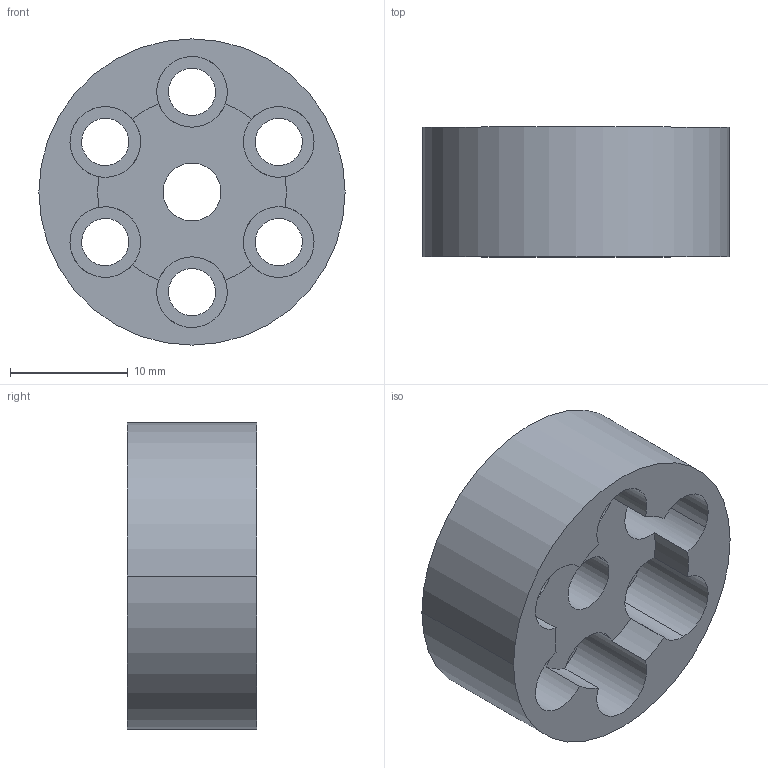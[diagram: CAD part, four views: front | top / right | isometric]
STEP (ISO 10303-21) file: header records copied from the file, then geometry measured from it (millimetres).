
FILE_DESCRIPTION(('CATIA V5 STEP Exchange'),'2;1');
FILE_NAME('C:\Users\Administrateur\Documents\Monture\Monture_voyage\Commande\Raccord_DEC.stp','2023-03-13T07:11:26+00:00',('none'),('none'),'CATIA Version 5 Release 18 GA (IN-10)','CATIA V5 STEP AP203','none');
FILE_SCHEMA(('CONFIG_CONTROL_DESIGN'));
Length unit declared in the file: millimetre
Products named in the file (1): Raccord_DEC
Bounding box: 26 x 11 x 26 mm (x, y, z)
Volume: 3562.5 mm3; surface area: 2896.7 mm2
Topology: 1 solids, 1 shells, 43 faces, 120 edges, 80 vertices
Faces by surface type: cylinder 34, plane 9
Entity records: 1304 total; most frequent: ORIENTED_EDGE 240, CARTESIAN_POINT 220, DIRECTION 158, EDGE_CURVE 120, AXIS2_PLACEMENT_3D 100, CIRCLE 80, VERTEX_POINT 80, EDGE_LOOP 58
